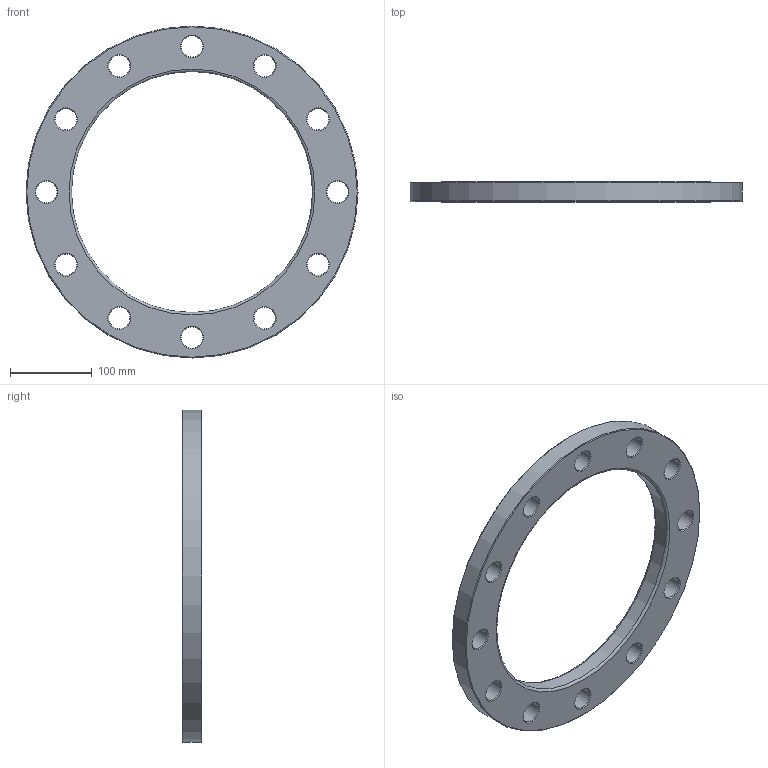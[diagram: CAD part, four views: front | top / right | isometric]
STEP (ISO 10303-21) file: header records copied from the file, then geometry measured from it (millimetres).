
FILE_DESCRIPTION(/* description */ ('Unknown'),/* implementation_level */ '2;1');
FILE_NAME(/* name */ 'FZ280C',/* time_stamp */ '2021-03-15T12:08:13+01:00',/* author */ ('Unknown'),/* organization */ ('Unknown'),/* preprocessor_version */ 'ST-DEVELOPER v16.7',/* originating_system */ 'Solid Edge',/* authorisation */ 'Unknown');
FILE_SCHEMA (('AUTOMOTIVE_DESIGN {1 0 10303 214 3 1 1}'));
Length unit declared in the file: millimetre
Products named in the file (1): FZ280C
Bounding box: 405 x 24 x 405 mm (x, y, z)
Volume: 1303751 mm3; surface area: 180380.9 mm2
Topology: 1 solids, 1 shells, 44 faces, 134 edges, 92 vertices
Faces by surface type: cone 26, cylinder 14, plane 2, torus 2
Full cylindrical faces by diameter (mm): 26 x12, 294 x1, 405 x1
Entity records: 1086 total; most frequent: DIRECTION 202, CARTESIAN_POINT 157, ORIENTED_EDGE 112, EDGE_LOOP 112, FACE_BOUND 112, AXIS2_PLACEMENT_3D 101, EDGE_CURVE 56, VERTEX_POINT 56
